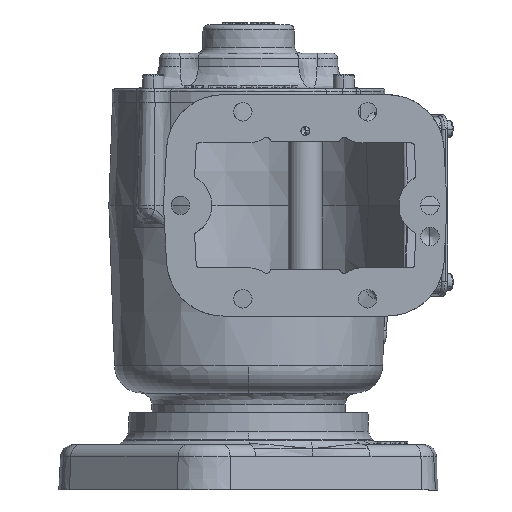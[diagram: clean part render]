
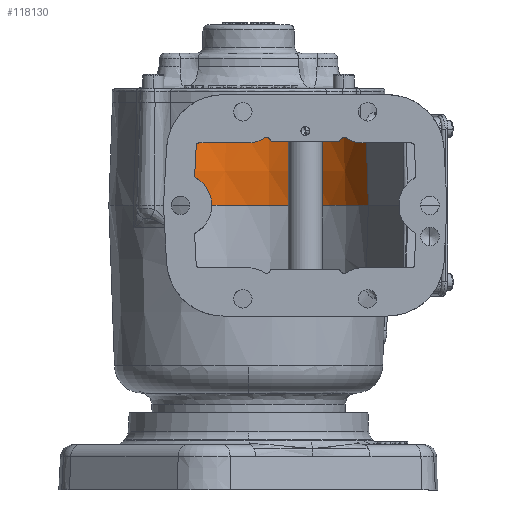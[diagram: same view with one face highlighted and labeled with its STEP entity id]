
A CAD part, front view. The second image highlights one B-rep face of the part: STEP entity #118130.
In plain terms, the highlighted conical face has half-angle 2 degrees and reference radius 71.882 mm.
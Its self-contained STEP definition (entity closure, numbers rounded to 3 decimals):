
#2836 = DIRECTION ( 'NONE',  ( -1., 0., 0. ) ) ;
#16810 = FACE_OUTER_BOUND ( 'NONE', #31573, .T. ) ;
#16959 = AXIS2_PLACEMENT_3D ( 'NONE', #121154, #80980, #100477 ) ;
#18050 = DIRECTION ( 'NONE',  ( -1., 0., 0. ) ) ;
#20420 = VERTEX_POINT ( 'NONE', #63298 ) ;
#31371 = ORIENTED_EDGE ( 'NONE', *, *, #64553, .F. ) ;
#31573 = EDGE_LOOP ( 'NONE', ( #31371, #38403, #82656, #46574 ) ) ;
#32459 = LINE ( 'NONE', #61967, #94653 ) ;
#37529 = CARTESIAN_POINT ( 'NONE',  ( -31.75, 84.572, 0. ) ) ;
#37585 = CARTESIAN_POINT ( 'NONE',  ( -103.632, 84.572, 0. ) ) ;
#38403 = ORIENTED_EDGE ( 'NONE', *, *, #116336, .T. ) ;
#42389 = CARTESIAN_POINT ( 'NONE',  ( -31.75, 84.572, 38.1 ) ) ;
#46574 = ORIENTED_EDGE ( 'NONE', *, *, #105398, .F. ) ;
#56667 = CARTESIAN_POINT ( 'NONE',  ( -102.302, 84.572, 38.1 ) ) ;
#58401 = AXIS2_PLACEMENT_3D ( 'NONE', #42389, #108344, #2836 ) ;
#61967 = CARTESIAN_POINT ( 'NONE',  ( 34.737, 110.094, 19.05 ) ) ;
#63298 = CARTESIAN_POINT ( 'NONE',  ( 35.358, 110.332, 0. ) ) ;
#64553 = EDGE_CURVE ( 'NONE', #111581, #76517, #112584, .T. ) ;
#74766 = CARTESIAN_POINT ( 'NONE',  ( -103.632, 84.572, 0. ) ) ;
#76412 = DIRECTION ( 'NONE',  ( 0., 0., -1. ) ) ;
#76517 = VERTEX_POINT ( 'NONE', #88333 ) ;
#80980 = DIRECTION ( 'NONE',  ( 0., 0., -1. ) ) ;
#82656 = ORIENTED_EDGE ( 'NONE', *, *, #90454, .T. ) ;
#85293 = LINE ( 'NONE', #37585, #115479 ) ;
#85585 = AXIS2_PLACEMENT_3D ( 'NONE', #37529, #76412, #18050 ) ;
#87554 = CONICAL_SURFACE ( 'NONE', #85585, 71.882, 0.035 ) ;
#88333 = CARTESIAN_POINT ( 'NONE',  ( 34.116, 109.855, 38.1 ) ) ;
#90454 = EDGE_CURVE ( 'NONE', #106248, #20420, #105269, .T. ) ;
#94088 = DIRECTION ( 'NONE',  ( -0.035, 0., -0.999 ) ) ;
#94653 = VECTOR ( 'NONE', #108469, 1000. ) ;
#100477 = DIRECTION ( 'NONE',  ( 0.934, 0.358, 0. ) ) ;
#105269 = CIRCLE ( 'NONE', #16959, 71.882 ) ;
#105398 = EDGE_CURVE ( 'NONE', #76517, #20420, #32459, .T. ) ;
#106248 = VERTEX_POINT ( 'NONE', #74766 ) ;
#108344 = DIRECTION ( 'NONE',  ( 0., 0., -1. ) ) ;
#108469 = DIRECTION ( 'NONE',  ( 0.033, 0.013, -0.999 ) ) ;
#111581 = VERTEX_POINT ( 'NONE', #56667 ) ;
#112584 = CIRCLE ( 'NONE', #58401, 70.552 ) ;
#115479 = VECTOR ( 'NONE', #94088, 1000. ) ;
#116336 = EDGE_CURVE ( 'NONE', #111581, #106248, #85293, .T. ) ;
#118130 = ADVANCED_FACE ( 'NONE', ( #16810 ), #87554, .F. ) ;
#121154 = CARTESIAN_POINT ( 'NONE',  ( -31.75, 84.572, 0. ) ) ;
